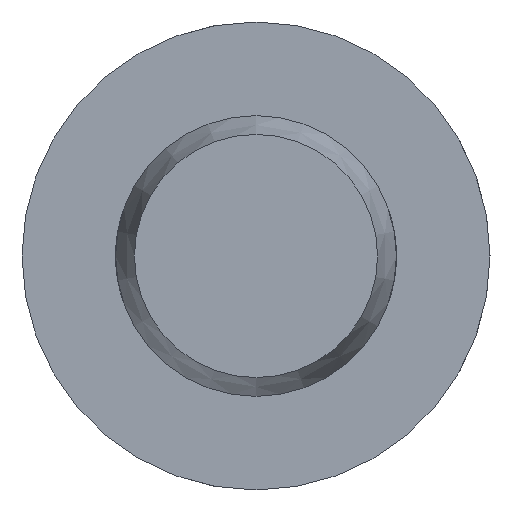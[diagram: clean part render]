
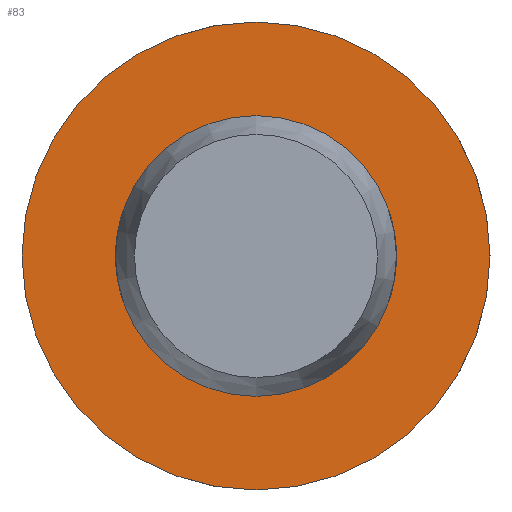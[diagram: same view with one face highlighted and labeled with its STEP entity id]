
A CAD part, left-side view. The second image highlights one B-rep face of the part: STEP entity #83.
In plain terms, the highlighted planar face has unit normal (-1, 0, 0).
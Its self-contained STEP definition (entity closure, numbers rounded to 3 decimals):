
#83 = ADVANCED_FACE( '', ( #129, #130 ), #131, .F. );
#129 = FACE_OUTER_BOUND( '', #208, .T. );
#130 = FACE_BOUND( '', #209, .T. );
#131 = PLANE( '', #210 );
#208 = EDGE_LOOP( '', ( #325 ) );
#209 = EDGE_LOOP( '', ( #326 ) );
#210 = AXIS2_PLACEMENT_3D( '', #327, #328, #329 );
#325 = ORIENTED_EDGE( '', *, *, #493, .F. );
#326 = ORIENTED_EDGE( '', *, *, #483, .T. );
#327 = CARTESIAN_POINT( '', ( 52., 3., 0. ) );
#328 = DIRECTION( '', ( 1., 0., 0. ) );
#329 = DIRECTION( '', ( 0., 0., -1. ) );
#483 = EDGE_CURVE( '', #554, #554, #555, .T. );
#493 = EDGE_CURVE( '', #572, #572, #573, .T. );
#554 = VERTEX_POINT( '', #741 );
#555 = CIRCLE( '', #742, 3. );
#572 = VERTEX_POINT( '', #850 );
#573 = CIRCLE( '', #851, 5. );
#741 = CARTESIAN_POINT( '', ( 52., 0., -3. ) );
#742 = AXIS2_PLACEMENT_3D( '', #914, #915, #916 );
#850 = CARTESIAN_POINT( '', ( 52., 0., -5. ) );
#851 = AXIS2_PLACEMENT_3D( '', #935, #936, #937 );
#914 = CARTESIAN_POINT( '', ( 52., 0., 0. ) );
#915 = DIRECTION( '', ( 1., 0., 0. ) );
#916 = DIRECTION( '', ( 0., 0., -1. ) );
#935 = CARTESIAN_POINT( '', ( 52., 0., 0. ) );
#936 = DIRECTION( '', ( 1., 0., 0. ) );
#937 = DIRECTION( '', ( 0., 0., -1. ) );
